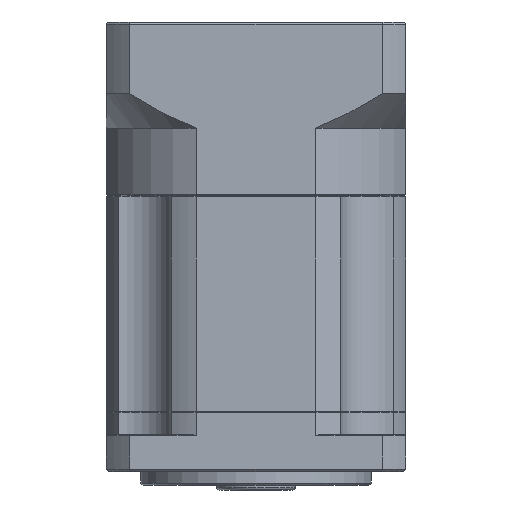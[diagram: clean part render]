
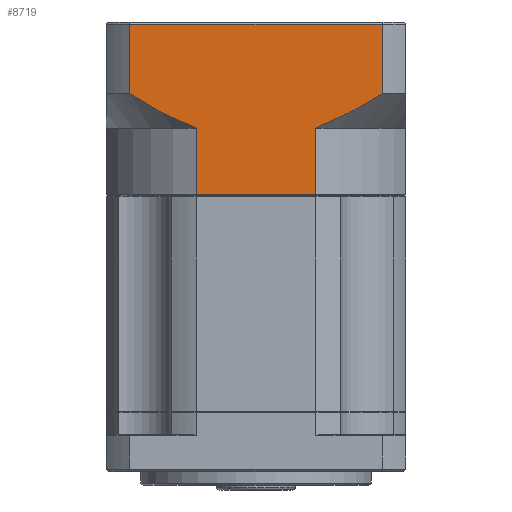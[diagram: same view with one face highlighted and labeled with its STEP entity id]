
A CAD part, front view. The second image highlights one B-rep face of the part: STEP entity #8719.
In plain terms, the highlighted planar face has unit normal (0, -1, 0).
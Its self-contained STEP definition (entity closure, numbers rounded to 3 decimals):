
#40 = CARTESIAN_POINT ( 'NONE',  ( -44.783, -29.081, 155.608 ) ) ;
#221 = LINE ( 'NONE', #73594, #82436 ) ;
#2030 = DIRECTION ( 'NONE',  ( -1., 0., 0. ) ) ;
#2225 = VECTOR ( 'NONE', #89622, 1000. ) ;
#5725 = ORIENTED_EDGE ( 'NONE', *, *, #108769, .F. ) ;
#6809 = CARTESIAN_POINT ( 'NONE',  ( -45.425, -29.081, 155.846 ) ) ;
#8719 = ADVANCED_FACE ( 'NONE', ( #44942 ), #88833, .F. ) ;
#8858 = EDGE_CURVE ( 'NONE', #87782, #39862, #115627, .T. ) ;
#9963 = CARTESIAN_POINT ( 'NONE',  ( -4.406, -29.081, 160.608 ) ) ;
#15564 = CARTESIAN_POINT ( 'NONE',  ( -47.325, -29.081, 156.624 ) ) ;
#15938 = CARTESIAN_POINT ( 'NONE',  ( -47.948, -29.081, 156.898 ) ) ;
#19270 = VECTOR ( 'NONE', #73992, 1000. ) ;
#20682 = EDGE_CURVE ( 'NONE', #87782, #47876, #64713, .T. ) ;
#21075 = AXIS2_PLACEMENT_3D ( 'NONE', #78161, #105059, #25005 ) ;
#22439 = EDGE_CURVE ( 'NONE', #101437, #50116, #82241, .T. ) ;
#23717 = CARTESIAN_POINT ( 'NONE',  ( -44.783, -29.081, 155.608 ) ) ;
#23826 = CARTESIAN_POINT ( 'NONE',  ( -59.178, -29.081, 163.108 ) ) ;
#24970 = CARTESIAN_POINT ( 'NONE',  ( -46.064, -29.081, 156.099 ) ) ;
#25005 = DIRECTION ( 'NONE',  ( -1., 0., 0. ) ) ;
#25261 = CARTESIAN_POINT ( 'NONE',  ( -18.802, -29.081, 155.608 ) ) ;
#25362 = CARTESIAN_POINT ( 'NONE',  ( -44.783, -29.081, 155.608 ) ) ;
#26078 = CARTESIAN_POINT ( 'NONE',  ( -18.802, -29.081, 155.608 ) ) ;
#28351 = VERTEX_POINT ( 'NONE', #113121 ) ;
#28931 = CARTESIAN_POINT ( 'NONE',  ( -59.178, -29.081, 178.108 ) ) ;
#33050 = VERTEX_POINT ( 'NONE', #116530 ) ;
#33455 = ORIENTED_EDGE ( 'NONE', *, *, #20682, .T. ) ;
#35620 = CARTESIAN_POINT ( 'NONE',  ( -10.217, -29.081, 159.604 ) ) ;
#39862 = VERTEX_POINT ( 'NONE', #23717 ) ;
#42632 = ORIENTED_EDGE ( 'NONE', *, *, #67220, .F. ) ;
#44942 = FACE_OUTER_BOUND ( 'NONE', #63786, .T. ) ;
#46976 = ORIENTED_EDGE ( 'NONE', *, *, #22439, .T. ) ;
#47272 = B_SPLINE_CURVE_WITH_KNOTS ( 'NONE', 3,
 ( #115195, #89884, #106873, #107673, #35620, #89494, #107267, #25261 ),
 .UNSPECIFIED., .F., .F.,
 ( 4, 2, 2, 4 ),
 ( 0.059, 0.063, 0.067, 0.075 ),
 .UNSPECIFIED. ) ;
#47876 = VERTEX_POINT ( 'NONE', #116684 ) ;
#49695 = ORIENTED_EDGE ( 'NONE', *, *, #8858, .F. ) ;
#50116 = VERTEX_POINT ( 'NONE', #69818 ) ;
#51465 = ORIENTED_EDGE ( 'NONE', *, *, #106667, .F. ) ;
#52314 = DIRECTION ( 'NONE',  ( 0., 0., -1. ) ) ;
#55360 = ORIENTED_EDGE ( 'NONE', *, *, #75318, .F. ) ;
#55359 = VECTOR ( 'NONE', #2030, 1000. ) ;
#55962 = DIRECTION ( 'NONE',  ( 0., 0., -1. ) ) ;
#56957 = LINE ( 'NONE', #9963, #83843 ) ;
#62956 = VERTEX_POINT ( 'NONE', #110162 ) ;
#63786 = EDGE_LOOP ( 'NONE', ( #51465, #46976, #55360, #5725, #49695, #33455, #42632, #97251 ) ) ;
#64713 = LINE ( 'NONE', #93396, #19270 ) ;
#67220 = EDGE_CURVE ( 'NONE', #28351, #47876, #92810, .T. ) ;
#69083 = CARTESIAN_POINT ( 'NONE',  ( -56.909, -29.081, 161.646 ) ) ;
#69818 = CARTESIAN_POINT ( 'NONE',  ( -59.178, -29.081, 178.108 ) ) ;
#73594 = CARTESIAN_POINT ( 'NONE',  ( -59.178, -29.081, 160.608 ) ) ;
#73992 = DIRECTION ( 'NONE',  ( 1., 0., 0. ) ) ;
#75318 = EDGE_CURVE ( 'NONE', #62956, #50116, #221, .T. ) ;
#77726 = EDGE_CURVE ( 'NONE', #33050, #28351, #47272, .T. ) ;
#78161 = CARTESIAN_POINT ( 'NONE',  ( 0.708, -29.081, 178.608 ) ) ;
#79267 = CARTESIAN_POINT ( 'NONE',  ( -49.802, -29.081, 157.748 ) ) ;
#82241 = LINE ( 'NONE', #28931, #55359 ) ;
#82436 = VECTOR ( 'NONE', #107204, 1000. ) ;
#83843 = VECTOR ( 'NONE', #55962, 1000. ) ;
#85114 = CARTESIAN_POINT ( 'NONE',  ( -4.406, -29.081, 178.108 ) ) ;
#87782 = VERTEX_POINT ( 'NONE', #112573 ) ;
#88429 = CARTESIAN_POINT ( 'NONE',  ( -51.014, -29.081, 158.353 ) ) ;
#88833 = PLANE ( 'NONE',  #21075 ) ;
#89494 = CARTESIAN_POINT ( 'NONE',  ( -13.811, -29.081, 157.695 ) ) ;
#89622 = DIRECTION ( 'NONE',  ( 0., 0., 1. ) ) ;
#89884 = CARTESIAN_POINT ( 'NONE',  ( -5.545, -29.081, 162.374 ) ) ;
#91589 = B_SPLINE_CURVE_WITH_KNOTS ( 'NONE', 3,
 ( #25362, #6809, #24970, #15564, #15938, #79267, #88429, #97517, #69083, #23826 ),
 .UNSPECIFIED., .F., .F.,
 ( 4, 2, 2, 2, 4 ),
 ( 0.101, 0.104, 0.106, 0.11, 0.118 ),
 .UNSPECIFIED. ) ;
#92810 = LINE ( 'NONE', #26078, #105480 ) ;
#93396 = CARTESIAN_POINT ( 'NONE',  ( 0.708, -29.081, 141.196 ) ) ;
#97251 = ORIENTED_EDGE ( 'NONE', *, *, #77726, .F. ) ;
#97517 = CARTESIAN_POINT ( 'NONE',  ( -54.595, -29.081, 160.258 ) ) ;
#101437 = VERTEX_POINT ( 'NONE', #85114 ) ;
#105059 = DIRECTION ( 'NONE',  ( 0., 1., 0. ) ) ;
#105480 = VECTOR ( 'NONE', #52314, 1000. ) ;
#106667 = EDGE_CURVE ( 'NONE', #101437, #33050, #56957, .T. ) ;
#106873 = CARTESIAN_POINT ( 'NONE',  ( -6.696, -29.081, 161.659 ) ) ;
#107204 = DIRECTION ( 'NONE',  ( 0., 0., 1. ) ) ;
#107267 = CARTESIAN_POINT ( 'NONE',  ( -16.263, -29.081, 156.55 ) ) ;
#107673 = CARTESIAN_POINT ( 'NONE',  ( -9.032, -29.081, 160.274 ) ) ;
#108769 = EDGE_CURVE ( 'NONE', #39862, #62956, #91589, .T. ) ;
#110162 = CARTESIAN_POINT ( 'NONE',  ( -59.178, -29.081, 163.108 ) ) ;
#112573 = CARTESIAN_POINT ( 'NONE',  ( -44.783, -29.081, 141.196 ) ) ;
#113121 = CARTESIAN_POINT ( 'NONE',  ( -18.802, -29.081, 155.608 ) ) ;
#115195 = CARTESIAN_POINT ( 'NONE',  ( -4.406, -29.081, 163.108 ) ) ;
#115627 = LINE ( 'NONE', #40, #2225 ) ;
#116530 = CARTESIAN_POINT ( 'NONE',  ( -4.406, -29.081, 163.108 ) ) ;
#116684 = CARTESIAN_POINT ( 'NONE',  ( -18.802, -29.081, 141.196 ) ) ;
